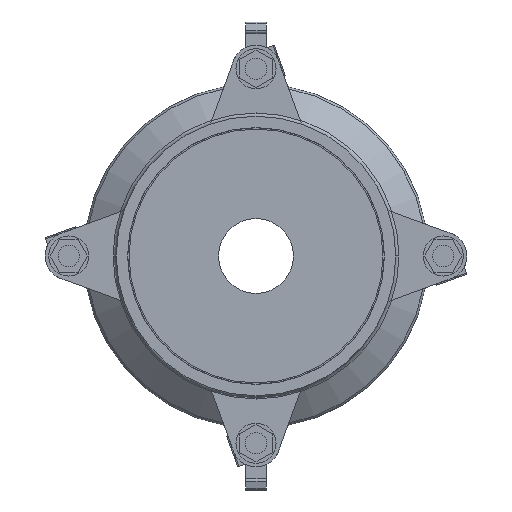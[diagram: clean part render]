
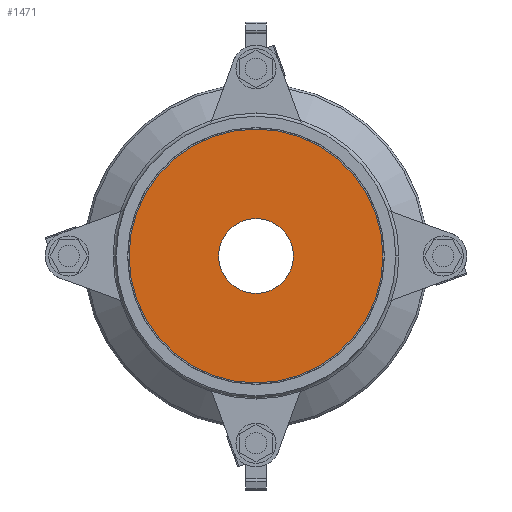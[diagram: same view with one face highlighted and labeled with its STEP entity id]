
A CAD part, left-side view. The second image highlights one B-rep face of the part: STEP entity #1471.
In plain terms, the highlighted planar face has unit normal (-1, 0, 0).
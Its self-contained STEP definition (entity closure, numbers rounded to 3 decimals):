
#1471=ADVANCED_FACE('',(#2689,#2690),#2691,.F.);
#2689=FACE_BOUND('',#3963,.T.);
#2690=FACE_OUTER_BOUND('',#3964,.T.);
#2691=PLANE('',#3965);
#3963=EDGE_LOOP('',(#6716,#6717));
#3964=EDGE_LOOP('',(#6718,#6719));
#3965=AXIS2_PLACEMENT_3D('',#6720,#6721,#6722);
#6716=ORIENTED_EDGE('',*,*,#7002,.T.);
#6717=ORIENTED_EDGE('',*,*,#7244,.T.);
#6718=ORIENTED_EDGE('',*,*,#7730,.T.);
#6719=ORIENTED_EDGE('',*,*,#6968,.T.);
#6720=CARTESIAN_POINT('',(102.0,0.0,0.));
#6721=DIRECTION('',(1.0,0.0,0.));
#6722=DIRECTION('',(0.,0.0,-1.0));
#6968=EDGE_CURVE('',#8150,#8147,#8151,.T.);
#7002=EDGE_CURVE('',#8205,#8207,#8209,.T.);
#7244=EDGE_CURVE('',#8207,#8205,#8617,.T.);
#7730=EDGE_CURVE('',#8147,#8150,#9299,.T.);
#8147=VERTEX_POINT('',#9805);
#8150=VERTEX_POINT('',#9809);
#8151=CIRCLE('',#9810,99.0);
#8205=VERTEX_POINT('',#9880);
#8207=VERTEX_POINT('',#9883);
#8209=CIRCLE('',#9886,28.0);
#8617=CIRCLE('',#10487,28.0);
#9299=CIRCLE('',#11471,99.0);
#9805=CARTESIAN_POINT('',(102.0,0.0,-99.0));
#9809=CARTESIAN_POINT('',(102.0,0.,99.0));
#9810=AXIS2_PLACEMENT_3D('',#11931,#11932,#11933);
#9880=CARTESIAN_POINT('',(102.0,0.0,-28.0));
#9883=CARTESIAN_POINT('',(102.0,0.,28.0));
#9886=AXIS2_PLACEMENT_3D('',#11979,#11980,#11981);
#10487=AXIS2_PLACEMENT_3D('',#12293,#12294,#12295);
#11471=AXIS2_PLACEMENT_3D('',#12826,#12827,#12828);
#11931=CARTESIAN_POINT('',(102.0,0.0,0.));
#11932=DIRECTION('',(-1.0,-0.0,0.));
#11933=DIRECTION('',(0.,0.0,-1.0));
#11979=CARTESIAN_POINT('',(102.0,0.0,0.));
#11980=DIRECTION('',(1.0,0.0,0.));
#11981=DIRECTION('',(0.,0.0,-1.0));
#12293=CARTESIAN_POINT('',(102.0,0.0,0.));
#12294=DIRECTION('',(1.0,0.0,0.));
#12295=DIRECTION('',(0.,0.0,-1.0));
#12826=CARTESIAN_POINT('',(102.0,0.0,0.));
#12827=DIRECTION('',(-1.0,-0.0,0.));
#12828=DIRECTION('',(0.,0.0,-1.0));
